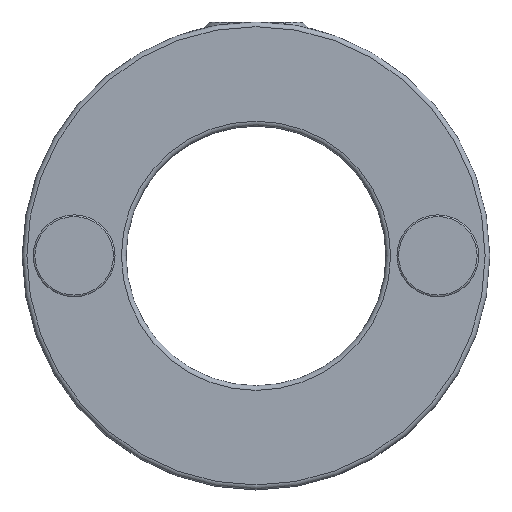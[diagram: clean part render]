
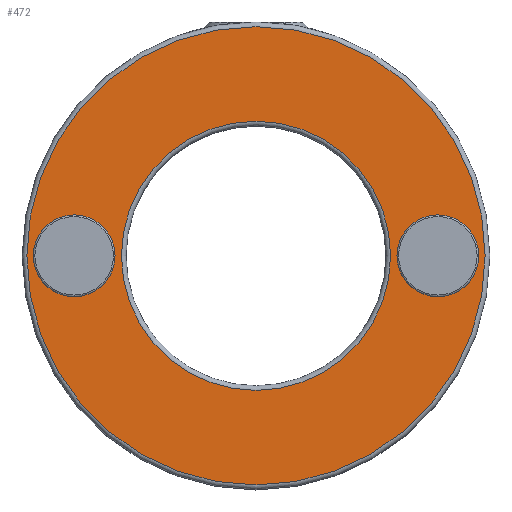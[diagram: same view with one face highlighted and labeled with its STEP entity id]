
A CAD part, top view. The second image highlights one B-rep face of the part: STEP entity #472.
In plain terms, the highlighted planar face has unit normal (0, 0, 1).
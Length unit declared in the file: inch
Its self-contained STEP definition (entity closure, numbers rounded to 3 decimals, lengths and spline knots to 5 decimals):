
#24=FACE_BOUND('',#167,.T.);
#25=FACE_BOUND('',#168,.T.);
#26=FACE_BOUND('',#169,.T.);
#47=PLANE('',#544);
#135=FACE_OUTER_BOUND('',#166,.T.);
#166=EDGE_LOOP('',(#388));
#167=EDGE_LOOP('',(#389));
#168=EDGE_LOOP('',(#390));
#169=EDGE_LOOP('',(#391));
#195=CIRCLE('',#516,0.09843);
#197=CIRCLE('',#519,0.09843);
#199=CIRCLE('',#522,0.55125);
#210=CIRCLE('',#535,0.32375);
#225=VERTEX_POINT('',#744);
#227=VERTEX_POINT('',#750);
#229=VERTEX_POINT('',#756);
#237=VERTEX_POINT('',#776);
#270=EDGE_CURVE('',#225,#225,#195,.T.);
#273=EDGE_CURVE('',#227,#227,#197,.T.);
#276=EDGE_CURVE('',#229,#229,#199,.T.);
#287=EDGE_CURVE('',#237,#237,#210,.T.);
#388=ORIENTED_EDGE('',*,*,#276,.T.);
#389=ORIENTED_EDGE('',*,*,#270,.T.);
#390=ORIENTED_EDGE('',*,*,#273,.T.);
#391=ORIENTED_EDGE('',*,*,#287,.T.);
#472=ADVANCED_FACE('',(#135,#24,#25,#26),#47,.T.);
#516=AXIS2_PLACEMENT_3D('',#745,#596,#597);
#519=AXIS2_PLACEMENT_3D('',#751,#603,#604);
#522=AXIS2_PLACEMENT_3D('',#757,#610,#611);
#535=AXIS2_PLACEMENT_3D('',#778,#636,#637);
#544=AXIS2_PLACEMENT_3D('',#867,#657,#658);
#596=DIRECTION('center_axis',(0.,0.,-1.));
#597=DIRECTION('ref_axis',(-1.,0.,0.));
#603=DIRECTION('center_axis',(0.,0.,-1.));
#604=DIRECTION('ref_axis',(-1.,0.,0.));
#610=DIRECTION('center_axis',(0.,0.,1.));
#611=DIRECTION('ref_axis',(1.,0.,0.));
#636=DIRECTION('center_axis',(0.,0.,-1.));
#637=DIRECTION('ref_axis',(1.,0.,0.));
#657=DIRECTION('center_axis',(0.,0.,1.));
#658=DIRECTION('ref_axis',(1.,0.,0.));
#744=CARTESIAN_POINT('',(-0.33907,0.,0.5));
#745=CARTESIAN_POINT('Origin',(-0.4375,0.,0.5));
#750=CARTESIAN_POINT('',(0.53593,0.,0.5));
#751=CARTESIAN_POINT('Origin',(0.4375,0.,0.5));
#756=CARTESIAN_POINT('',(-0.55125,0.,0.5));
#757=CARTESIAN_POINT('Origin',(0.,0.,0.5));
#776=CARTESIAN_POINT('',(-0.32375,0.,0.5));
#778=CARTESIAN_POINT('Origin',(0.,0.,0.5));
#867=CARTESIAN_POINT('Origin',(0.,0.,0.5));
